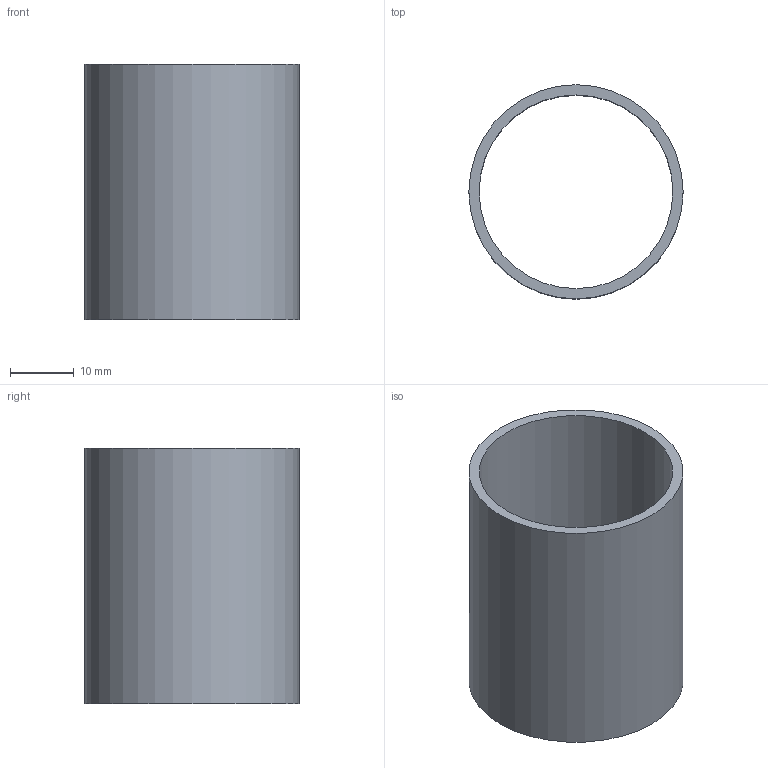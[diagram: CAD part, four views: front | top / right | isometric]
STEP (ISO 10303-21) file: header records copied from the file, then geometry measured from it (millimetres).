
FILE_DESCRIPTION(('FreeCAD Model'),'2;1');
FILE_NAME('Open CASCADE Shape Model','2026-10-30T15:57:35',('FreeCAD'),( 'FreeCAD'),'Open CASCADE STEP processor 7.8','FreeCAD','Unknown');
FILE_SCHEMA(('AUTOMOTIVE_DESIGN { 1 0 10303 214 1 1 1 1 }'));
Length unit declared in the file: millimetre
Products named in the file (1): Open CASCADE STEP translator 7.8 11
Bounding box: 33.5 x 33.5 x 40 mm (x, y, z)
Volume: 6413.9 mm3; surface area: 8338 mm2
Topology: 1 solids, 1 shells, 4 faces, 6 edges, 4 vertices
Faces by surface type: cylinder 2, plane 2
Full cylindrical faces by diameter (mm): 30.3 x1, 33.5 x1
Entity records: 108 total; most frequent: DIRECTION 20, CARTESIAN_POINT 15, ORIENTED_EDGE 12, AXIS2_PLACEMENT_3D 9, FACE_BOUND 6, EDGE_LOOP 6, EDGE_CURVE 6, ADVANCED_FACE 4
